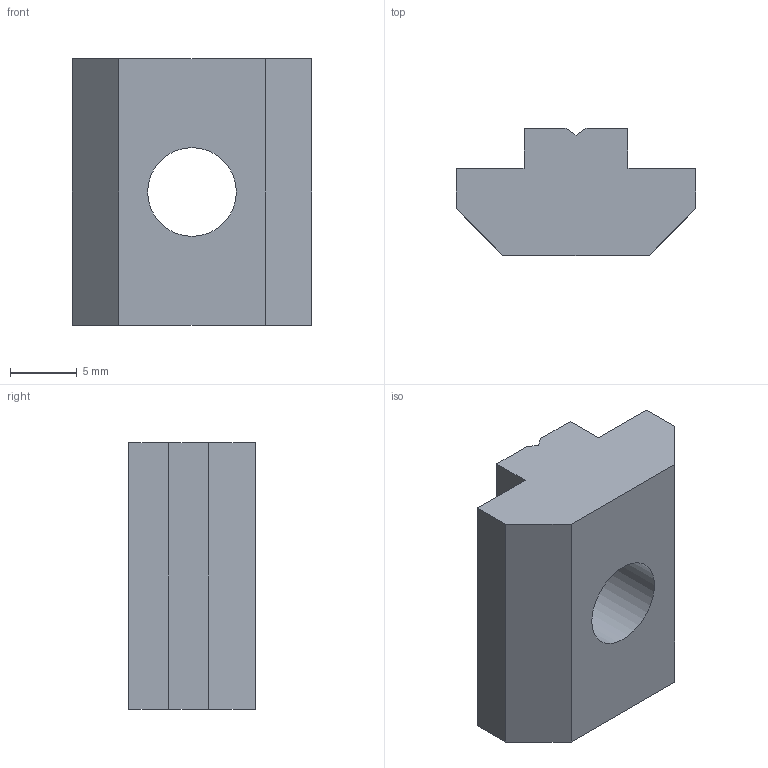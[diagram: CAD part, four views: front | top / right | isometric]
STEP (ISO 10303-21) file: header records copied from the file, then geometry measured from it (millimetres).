
FILE_DESCRIPTION((''),'2;1');
FILE_NAME('E:\catalogue and flyer\Profile catalogue 2015\Accessories JE info\Accessories-JE step file 31MAr16\JE-SB8-8_4040.stp','2016-04-07T11:34:33',('h029'),(''),'Autodesk Inventor 11','Autodesk Inventor 11','');
FILE_SCHEMA(('AUTOMOTIVE_DESIGN { 1 0 10303 214 1 1 1 1 }'));
Length unit declared in the file: millimetre
Products named in the file (1): JE-SB8-8
Bounding box: 18 x 9.5 x 20 mm (x, y, z)
Volume: 2225.9 mm3; surface area: 1400.3 mm2
Topology: 1 solids, 1 shells, 20 faces, 53 edges, 34 vertices
Faces by surface type: plane 17, cone 2, bspline 1
Entity records: 640 total; most frequent: CARTESIAN_POINT 122, ORIENTED_EDGE 102, DIRECTION 100, EDGE_CURVE 51, VECTOR 42, LINE 42, VERTEX_POINT 33, AXIS2_PLACEMENT_3D 29
